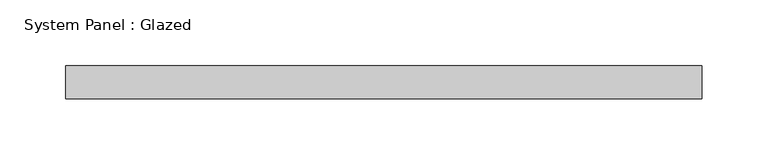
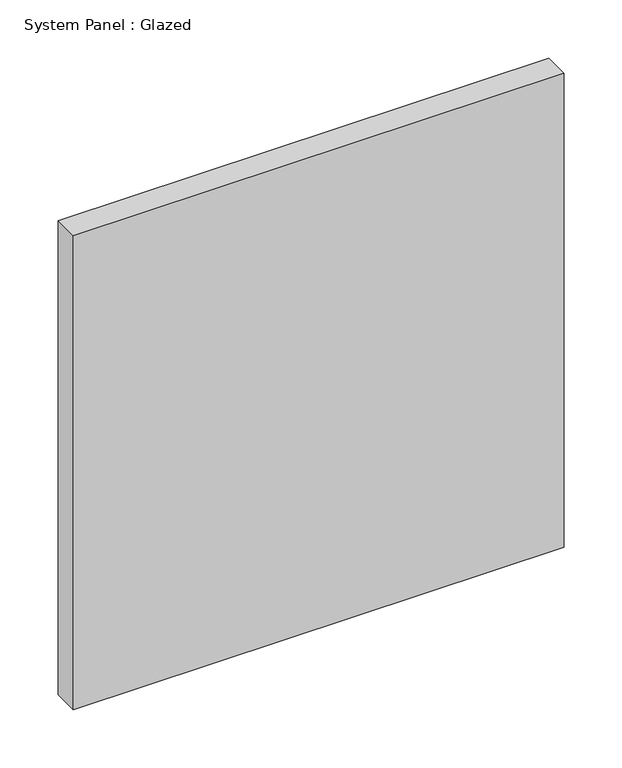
"""IFC4 building model written with IfcOpenShell, lengths in millimetres: plate geometry, System Panel : Glazed."""

from ifc_helpers import new_model, si_unit, origin, origin_with_axes, place, context, project, spatial, polyline, outline, extrude, source, transform, mapped, element, save


def system_panel_glazed_84a10c8e(model_context):
    return source(origin(), model_context, "Body", "SweptSolid", [
        extrude(outline(polyline([(242.57, -12.7), (-242.57, -12.7), (-242.57, 12.7), (242.57, 12.7), (242.57, -12.7)])), origin_with_axes(), (0.0, 0.0, 1.0), 495.3),
    ])


if __name__ == "__main__":
    model = new_model("IFC4")
    model_context = context("Model", 3, world=origin())
    ifc_project = project(units=[si_unit("LENGTHUNIT", "METRE", prefix="MILLI")], contexts=[model_context])
    site = spatial("IfcSite", under=ifc_project)
    building = spatial("IfcBuilding", under=site)
    placement = place(None, origin())
    system_panel_glazed_shape = system_panel_glazed_84a10c8e(model_context)
    element("IfcPlate", 1, ObjectType="System Panel : Glazed", at=placement, inside=building, context=model_context, shape_type="MappedRepresentation", body=[
        mapped(system_panel_glazed_shape, transform((0.0, 0.0, 0.0), x_axis=(1.0, 0.0, 0.0), y_axis=(0.0, 1.0, 0.0), z_axis=(0.0, 0.0, 1.0))),
    ])
    save(model, "model.ifc")
